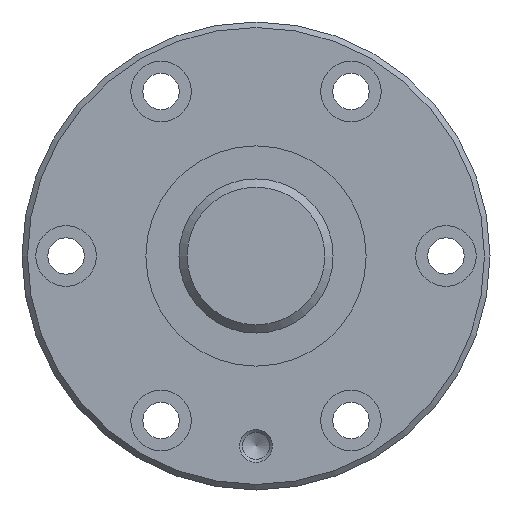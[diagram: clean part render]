
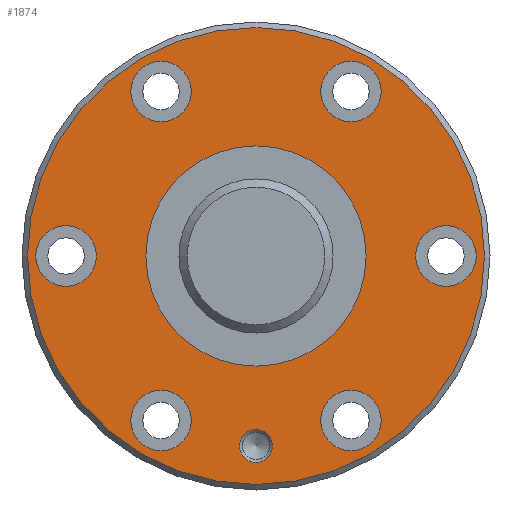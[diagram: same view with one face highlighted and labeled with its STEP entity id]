
A CAD part, left-side view. The second image highlights one B-rep face of the part: STEP entity #1874.
In plain terms, the highlighted planar face has unit normal (-1, 0, 0).
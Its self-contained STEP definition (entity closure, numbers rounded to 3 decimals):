
#452=ORIENTED_EDGE('',*,*,#936,.T.);
#453=ORIENTED_EDGE('',*,*,#937,.T.);
#454=ORIENTED_EDGE('',*,*,#938,.T.);
#455=ORIENTED_EDGE('',*,*,#939,.T.);
#456=ORIENTED_EDGE('',*,*,#940,.T.);
#457=ORIENTED_EDGE('',*,*,#941,.T.);
#458=ORIENTED_EDGE('',*,*,#942,.T.);
#459=ORIENTED_EDGE('',*,*,#943,.T.);
#460=ORIENTED_EDGE('',*,*,#944,.F.);
#936=EDGE_CURVE('',#1179,#1179,#1337,.T.);
#937=EDGE_CURVE('',#1180,#1180,#1338,.T.);
#938=EDGE_CURVE('',#1181,#1181,#1339,.T.);
#939=EDGE_CURVE('',#1182,#1182,#1340,.T.);
#940=EDGE_CURVE('',#1183,#1183,#1341,.T.);
#941=EDGE_CURVE('',#1184,#1184,#1342,.T.);
#942=EDGE_CURVE('',#1185,#1185,#1343,.T.);
#943=EDGE_CURVE('',#1186,#1186,#1344,.T.);
#944=EDGE_CURVE('',#1187,#1187,#1345,.T.);
#1179=VERTEX_POINT('',#2953);
#1180=VERTEX_POINT('',#2955);
#1181=VERTEX_POINT('',#2957);
#1182=VERTEX_POINT('',#2959);
#1183=VERTEX_POINT('',#2961);
#1184=VERTEX_POINT('',#2963);
#1185=VERTEX_POINT('',#2965);
#1186=VERTEX_POINT('',#2967);
#1187=VERTEX_POINT('',#2969);
#1337=CIRCLE('',#2032,20.);
#1338=CIRCLE('',#2033,5.5);
#1339=CIRCLE('',#2034,5.5);
#1340=CIRCLE('',#2035,3.);
#1341=CIRCLE('',#2036,5.5);
#1342=CIRCLE('',#2037,5.5);
#1343=CIRCLE('',#2038,5.5);
#1344=CIRCLE('',#2039,5.5);
#1345=CIRCLE('',#2040,41.5);
#1433=EDGE_LOOP('',(#452));
#1434=EDGE_LOOP('',(#453));
#1435=EDGE_LOOP('',(#454));
#1436=EDGE_LOOP('',(#455));
#1437=EDGE_LOOP('',(#456));
#1438=EDGE_LOOP('',(#457));
#1439=EDGE_LOOP('',(#458));
#1440=EDGE_LOOP('',(#459));
#1441=EDGE_LOOP('',(#460));
#1621=FACE_BOUND('',#1433,.T.);
#1622=FACE_BOUND('',#1434,.T.);
#1623=FACE_BOUND('',#1435,.T.);
#1624=FACE_BOUND('',#1436,.T.);
#1625=FACE_BOUND('',#1437,.T.);
#1626=FACE_BOUND('',#1438,.T.);
#1627=FACE_BOUND('',#1439,.T.);
#1628=FACE_BOUND('',#1440,.T.);
#1629=FACE_BOUND('',#1441,.T.);
#1800=PLANE('',#2031);
#1874=ADVANCED_FACE('',(#1621,#1622,#1623,#1624,#1625,#1626,#1627,#1628,
#1629),#1800,.T.);
#2031=AXIS2_PLACEMENT_3D('',#2951,#2296,#2297);
#2032=AXIS2_PLACEMENT_3D('',#2952,#2298,#2299);
#2033=AXIS2_PLACEMENT_3D('',#2954,#2300,#2301);
#2034=AXIS2_PLACEMENT_3D('',#2956,#2302,#2303);
#2035=AXIS2_PLACEMENT_3D('',#2958,#2304,#2305);
#2036=AXIS2_PLACEMENT_3D('',#2960,#2306,#2307);
#2037=AXIS2_PLACEMENT_3D('',#2962,#2308,#2309);
#2038=AXIS2_PLACEMENT_3D('',#2964,#2310,#2311);
#2039=AXIS2_PLACEMENT_3D('',#2966,#2312,#2313);
#2040=AXIS2_PLACEMENT_3D('',#2968,#2314,#2315);
#2296=DIRECTION('',(-1.,0.,0.));
#2297=DIRECTION('',(0.,0.,1.));
#2298=DIRECTION('',(1.,0.,0.));
#2299=DIRECTION('',(0.,0.,-1.));
#2300=DIRECTION('',(1.,0.,0.));
#2301=DIRECTION('',(0.,0.,-1.));
#2302=DIRECTION('',(1.,0.,0.));
#2303=DIRECTION('',(0.,0.,-1.));
#2304=DIRECTION('',(1.,0.,0.));
#2305=DIRECTION('',(0.,0.,-1.));
#2306=DIRECTION('',(1.,0.,0.));
#2307=DIRECTION('',(0.,0.,-1.));
#2308=DIRECTION('',(1.,0.,0.));
#2309=DIRECTION('',(0.,0.,-1.));
#2310=DIRECTION('',(1.,0.,0.));
#2311=DIRECTION('',(0.,0.,-1.));
#2312=DIRECTION('',(1.,0.,0.));
#2313=DIRECTION('',(0.,0.,-1.));
#2314=DIRECTION('',(1.,0.,0.));
#2315=DIRECTION('',(0.,0.,-1.));
#2951=CARTESIAN_POINT('',(0.,41.5,0.));
#2952=CARTESIAN_POINT('',(0.,0.,0.));
#2953=CARTESIAN_POINT('',(0.,0.,-20.));
#2954=CARTESIAN_POINT('',(0.,-29.878,-17.25));
#2955=CARTESIAN_POINT('',(0.,-29.878,-22.75));
#2956=CARTESIAN_POINT('',(0.,29.878,17.25));
#2957=CARTESIAN_POINT('',(0.,29.878,11.75));
#2958=CARTESIAN_POINT('',(0.,-34.5,0.));
#2959=CARTESIAN_POINT('',(0.,-34.5,-3.));
#2960=CARTESIAN_POINT('',(0.,0.,34.5));
#2961=CARTESIAN_POINT('',(0.,0.,29.));
#2962=CARTESIAN_POINT('',(0.,-29.878,17.25));
#2963=CARTESIAN_POINT('',(0.,-29.878,11.75));
#2964=CARTESIAN_POINT('',(0.,0.,-34.5));
#2965=CARTESIAN_POINT('',(0.,0.,-40.));
#2966=CARTESIAN_POINT('',(0.,29.878,-17.25));
#2967=CARTESIAN_POINT('',(0.,29.878,-22.75));
#2968=CARTESIAN_POINT('',(0.,0.,0.));
#2969=CARTESIAN_POINT('',(0.,0.,-41.5));
